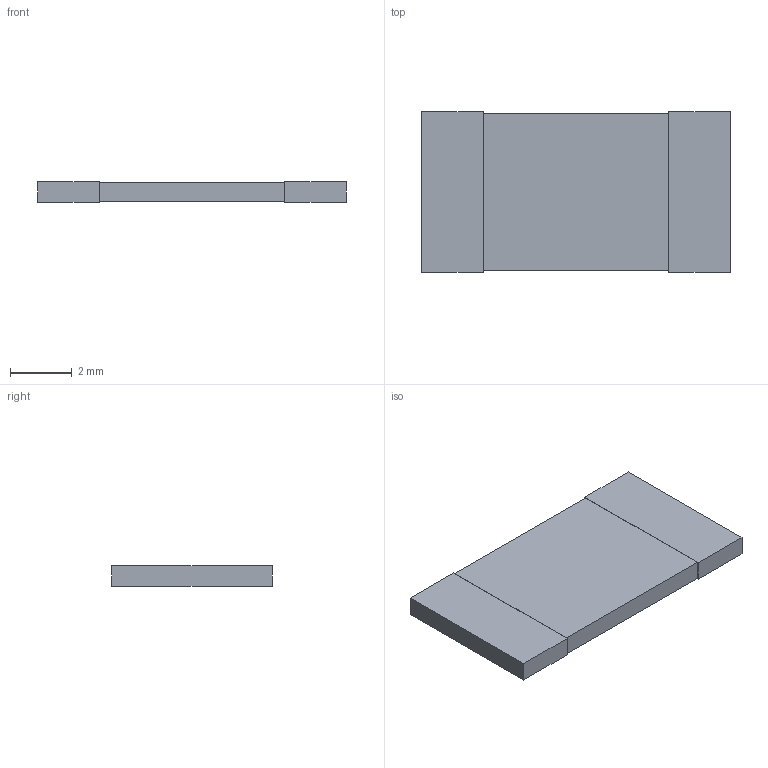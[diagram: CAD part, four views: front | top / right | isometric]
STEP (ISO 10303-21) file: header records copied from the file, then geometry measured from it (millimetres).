
FILE_DESCRIPTION(('FreeCAD Model'),'2;1');
FILE_NAME('/var/www/3D/0T/15787225.1.1.stp','2022-02-05T10:18:28',( 'Author'),(''),'Open CASCADE STEP processor 6.9','FreeCAD','Unknown' );
FILE_SCHEMA(('AUTOMOTIVE_DESIGN { 1 0 10303 214 1 1 1 1 }'));
Length unit declared in the file: millimetre
Products named in the file (4): ASSEMBLY; term1; term2; body
Assembly tree (3 placements, depth 2):
  ASSEMBLY
    term1
    term2
    body
Bounding box: 10 x 5.2 x 0.65 mm (x, y, z)
Volume: 33 mm3; surface area: 135.6 mm2
Topology: 3 solids, 3 shells, 18 faces, 36 edges, 24 vertices
Faces by surface type: plane 18
Entity records: 1020 total; most frequent: CARTESIAN_POINT 154, DIRECTION 152, LINE 108, VECTOR 108, ORIENTED_EDGE 72, PCURVE 72, DEFINITIONAL_REPRESENTATION 72, EDGE_CURVE 36
